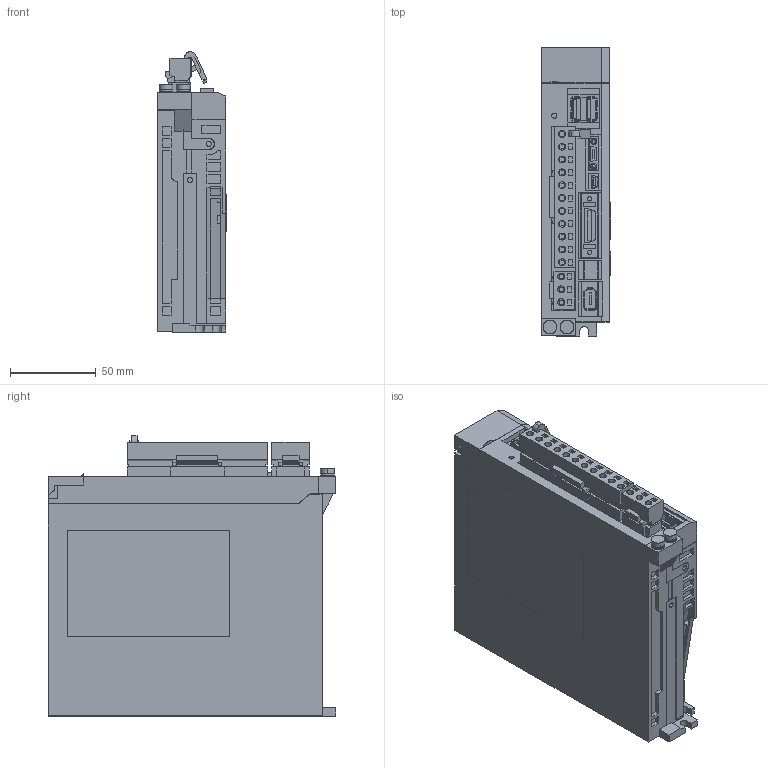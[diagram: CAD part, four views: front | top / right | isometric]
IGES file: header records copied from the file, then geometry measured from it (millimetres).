
Start section: SolidWorks IGES file using analytic representation for surfaces
Global section: file name: D:\YASKAWA\sgd7s_1r6a10a.IGS; native system: SolidWorks 2006 by SolidWorks Corporation; preprocessor: SolidWorks 2006 by SolidWorks Corporation; author: yamanouchi; date: 140306.132921; units: millimetre
Bounding box: 40.5 x 168 x 163.84 mm (x, y, z)
Surface area: 130297.9 mm2 (no closed solid volume)
Topology: 0 solids, 0 shells, 1687 faces, 12585 edges, 12585 vertices
Faces by surface type: bspline 1543, revolution 144
